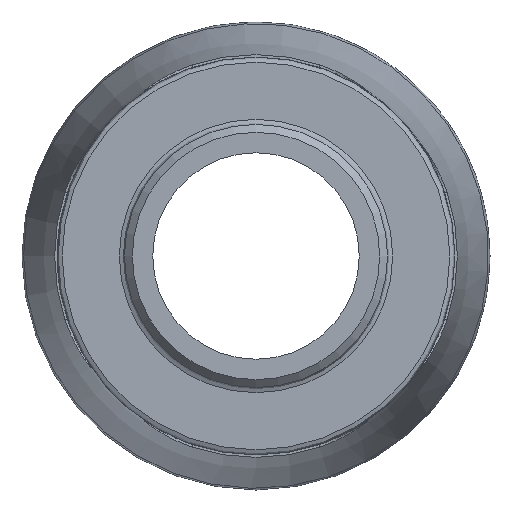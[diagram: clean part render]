
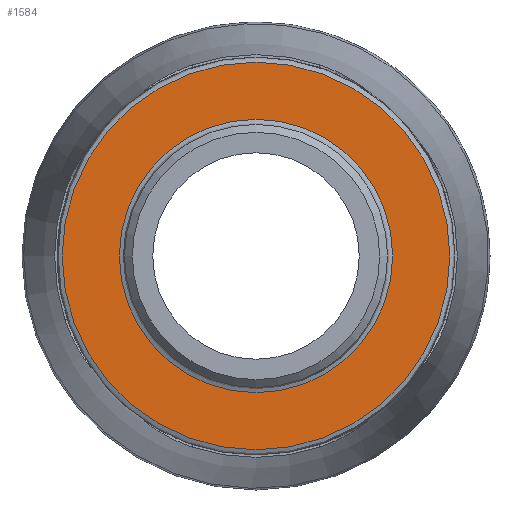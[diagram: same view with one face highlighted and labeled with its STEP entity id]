
A CAD part, left-side view. The second image highlights one B-rep face of the part: STEP entity #1584.
In plain terms, the highlighted planar face has unit normal (-1, 0, 0).
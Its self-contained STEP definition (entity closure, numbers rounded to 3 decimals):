
#262=PLANE('',#1742);
#356=FACE_BOUND('',#504,.T.);
#392=FACE_OUTER_BOUND('',#503,.T.);
#503=EDGE_LOOP('',(#1230));
#504=EDGE_LOOP('',(#1231));
#632=CIRCLE('',#1741,24.827);
#633=CIRCLE('',#1743,35.2);
#742=VERTEX_POINT('',#2817);
#743=VERTEX_POINT('',#2820);
#920=EDGE_CURVE('',#742,#742,#632,.T.);
#921=EDGE_CURVE('',#743,#743,#633,.T.);
#1230=ORIENTED_EDGE('',*,*,#921,.F.);
#1231=ORIENTED_EDGE('',*,*,#920,.F.);
#1584=ADVANCED_FACE('',(#392,#356),#262,.T.);
#1741=AXIS2_PLACEMENT_3D('',#2818,#2035,#2036);
#1742=AXIS2_PLACEMENT_3D('',#2819,#2037,#2038);
#1743=AXIS2_PLACEMENT_3D('',#2821,#2039,#2040);
#2035=DIRECTION('center_axis',(-1.,0.,0.));
#2036=DIRECTION('ref_axis',(0.,-1.,0.));
#2037=DIRECTION('center_axis',(-1.,0.,0.));
#2038=DIRECTION('ref_axis',(0.,0.,1.));
#2039=DIRECTION('center_axis',(1.,0.,0.));
#2040=DIRECTION('ref_axis',(0.,-1.,0.));
#2817=CARTESIAN_POINT('',(21.,24.827,0.));
#2818=CARTESIAN_POINT('Origin',(21.,0.,0.));
#2819=CARTESIAN_POINT('Origin',(21.,36.125,0.));
#2820=CARTESIAN_POINT('',(21.,35.2,0.));
#2821=CARTESIAN_POINT('Origin',(21.,0.,0.));
